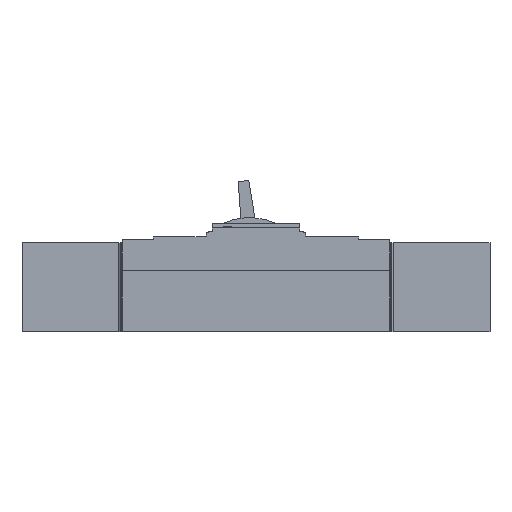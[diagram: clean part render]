
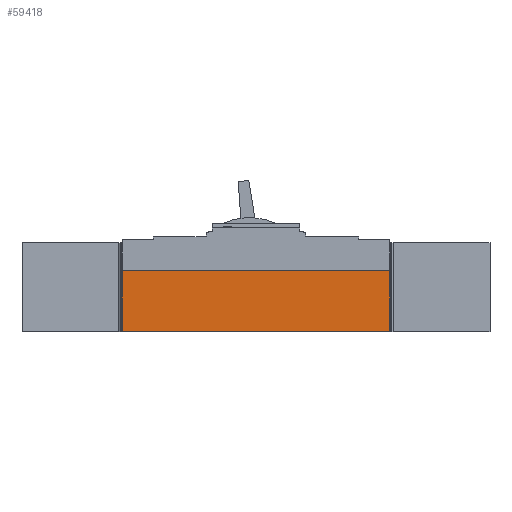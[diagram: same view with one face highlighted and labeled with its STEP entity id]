
A CAD part, left-side view. The second image highlights one B-rep face of the part: STEP entity #59418.
In plain terms, the highlighted planar face has unit normal (-1, 0, 0).
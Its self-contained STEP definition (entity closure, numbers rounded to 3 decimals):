
#59418 = ADVANCED_FACE('',(#59419),#59433,.T.);
#59419 = FACE_BOUND('',#59420,.T.);
#59420 = EDGE_LOOP('',(#59421,#59456,#59482,#59510));
#59421 = ORIENTED_EDGE('',*,*,#59422,.T.);
#59422 = EDGE_CURVE('',#59423,#59425,#59427,.T.);
#59423 = VERTEX_POINT('',#59424);
#59424 = CARTESIAN_POINT('',(0.,0.,0.));
#59425 = VERTEX_POINT('',#59426);
#59426 = CARTESIAN_POINT('',(0.,0.,63.));
#59427 = SURFACE_CURVE('',#59428,(#59432,#59444),.PCURVE_S1.);
#59428 = LINE('',#59429,#59430);
#59429 = CARTESIAN_POINT('',(0.,0.,0.));
#59430 = VECTOR('',#59431,1.);
#59431 = DIRECTION('',(0.,0.,1.));
#59432 = PCURVE('',#59433,#59438);
#59433 = PLANE('',#59434);
#59434 = AXIS2_PLACEMENT_3D('',#59435,#59436,#59437);
#59435 = CARTESIAN_POINT('',(0.,138.,51.149));
#59436 = DIRECTION('',(-1.,-0.,-0.));
#59437 = DIRECTION('',(0.,0.,-1.));
#59438 = DEFINITIONAL_REPRESENTATION('',(#59439),#59443);
#59439 = LINE('',#59440,#59441);
#59440 = CARTESIAN_POINT('',(51.149,138.));
#59441 = VECTOR('',#59442,1.);
#59442 = DIRECTION('',(-1.,0.));
#59443 = ( GEOMETRIC_REPRESENTATION_CONTEXT(2) 
PARAMETRIC_REPRESENTATION_CONTEXT() REPRESENTATION_CONTEXT('2D SPACE',''
  ) );
#59444 = PCURVE('',#59445,#59450);
#59445 = PLANE('',#59446);
#59446 = AXIS2_PLACEMENT_3D('',#59447,#59448,#59449);
#59447 = CARTESIAN_POINT('',(0.,0.,0.));
#59448 = DIRECTION('',(0.,1.,0.));
#59449 = DIRECTION('',(1.,0.,0.));
#59450 = DEFINITIONAL_REPRESENTATION('',(#59451),#59455);
#59451 = LINE('',#59452,#59453);
#59452 = CARTESIAN_POINT('',(0.,0.));
#59453 = VECTOR('',#59454,1.);
#59454 = DIRECTION('',(0.,-1.));
#59455 = ( GEOMETRIC_REPRESENTATION_CONTEXT(2) 
PARAMETRIC_REPRESENTATION_CONTEXT() REPRESENTATION_CONTEXT('2D SPACE',''
  ) );
#59456 = ORIENTED_EDGE('',*,*,#59457,.F.);
#59457 = EDGE_CURVE('',#59458,#59425,#59460,.T.);
#59458 = VERTEX_POINT('',#59459);
#59459 = CARTESIAN_POINT('',(0.,276.,63.));
#59460 = SURFACE_CURVE('',#59461,(#59465,#59471),.PCURVE_S1.);
#59461 = LINE('',#59462,#59463);
#59462 = CARTESIAN_POINT('',(0.,137.979,63.));
#59463 = VECTOR('',#59464,1.);
#59464 = DIRECTION('',(0.,-1.,0.));
#59465 = PCURVE('',#59433,#59466);
#59466 = DEFINITIONAL_REPRESENTATION('',(#59467),#59470);
#59467 = B_SPLINE_CURVE_WITH_KNOTS('',1,(#59468,#59469),.UNSPECIFIED.,
  .F.,.F.,(2,2),(-138.021,137.979),.PIECEWISE_BEZIER_KNOTS.);
#59468 = CARTESIAN_POINT('',(-11.851,-138.));
#59469 = CARTESIAN_POINT('',(-11.851,138.));
#59470 = ( GEOMETRIC_REPRESENTATION_CONTEXT(2) 
PARAMETRIC_REPRESENTATION_CONTEXT() REPRESENTATION_CONTEXT('2D SPACE',''
  ) );
#59471 = PCURVE('',#59472,#59477);
#59472 = PLANE('',#59473);
#59473 = AXIS2_PLACEMENT_3D('',#59474,#59475,#59476);
#59474 = CARTESIAN_POINT('',(101.325,137.958,63.));
#59475 = DIRECTION('',(-0.,-0.,-1.));
#59476 = DIRECTION('',(-1.,0.,0.));
#59477 = DEFINITIONAL_REPRESENTATION('',(#59478),#59481);
#59478 = B_SPLINE_CURVE_WITH_KNOTS('',1,(#59479,#59480),.UNSPECIFIED.,
  .F.,.F.,(2,2),(-138.021,137.979),.PIECEWISE_BEZIER_KNOTS.);
#59479 = CARTESIAN_POINT('',(101.325,138.042));
#59480 = CARTESIAN_POINT('',(101.325,-137.958));
#59481 = ( GEOMETRIC_REPRESENTATION_CONTEXT(2) 
PARAMETRIC_REPRESENTATION_CONTEXT() REPRESENTATION_CONTEXT('2D SPACE',''
  ) );
#59482 = ORIENTED_EDGE('',*,*,#59483,.F.);
#59483 = EDGE_CURVE('',#59484,#59458,#59486,.T.);
#59484 = VERTEX_POINT('',#59485);
#59485 = CARTESIAN_POINT('',(0.,276.,0.));
#59486 = SURFACE_CURVE('',#59487,(#59491,#59498),.PCURVE_S1.);
#59487 = LINE('',#59488,#59489);
#59488 = CARTESIAN_POINT('',(0.,276.,0.));
#59489 = VECTOR('',#59490,1.);
#59490 = DIRECTION('',(0.,0.,1.));
#59491 = PCURVE('',#59433,#59492);
#59492 = DEFINITIONAL_REPRESENTATION('',(#59493),#59497);
#59493 = LINE('',#59494,#59495);
#59494 = CARTESIAN_POINT('',(51.149,-138.));
#59495 = VECTOR('',#59496,1.);
#59496 = DIRECTION('',(-1.,0.));
#59497 = ( GEOMETRIC_REPRESENTATION_CONTEXT(2) 
PARAMETRIC_REPRESENTATION_CONTEXT() REPRESENTATION_CONTEXT('2D SPACE',''
  ) );
#59498 = PCURVE('',#59499,#59504);
#59499 = PLANE('',#59500);
#59500 = AXIS2_PLACEMENT_3D('',#59501,#59502,#59503);
#59501 = CARTESIAN_POINT('',(212.,276.,0.));
#59502 = DIRECTION('',(0.,-1.,0.));
#59503 = DIRECTION('',(-1.,0.,0.));
#59504 = DEFINITIONAL_REPRESENTATION('',(#59505),#59509);
#59505 = LINE('',#59506,#59507);
#59506 = CARTESIAN_POINT('',(212.,0.));
#59507 = VECTOR('',#59508,1.);
#59508 = DIRECTION('',(0.,-1.));
#59509 = ( GEOMETRIC_REPRESENTATION_CONTEXT(2) 
PARAMETRIC_REPRESENTATION_CONTEXT() REPRESENTATION_CONTEXT('2D SPACE',''
  ) );
#59510 = ORIENTED_EDGE('',*,*,#59511,.T.);
#59511 = EDGE_CURVE('',#59484,#59423,#59512,.T.);
#59512 = SURFACE_CURVE('',#59513,(#59517,#59524),.PCURVE_S1.);
#59513 = LINE('',#59514,#59515);
#59514 = CARTESIAN_POINT('',(0.,276.,0.));
#59515 = VECTOR('',#59516,1.);
#59516 = DIRECTION('',(0.,-1.,0.));
#59517 = PCURVE('',#59433,#59518);
#59518 = DEFINITIONAL_REPRESENTATION('',(#59519),#59523);
#59519 = LINE('',#59520,#59521);
#59520 = CARTESIAN_POINT('',(51.149,-138.));
#59521 = VECTOR('',#59522,1.);
#59522 = DIRECTION('',(0.,1.));
#59523 = ( GEOMETRIC_REPRESENTATION_CONTEXT(2) 
PARAMETRIC_REPRESENTATION_CONTEXT() REPRESENTATION_CONTEXT('2D SPACE',''
  ) );
#59524 = PCURVE('',#59525,#59530);
#59525 = PLANE('',#59526);
#59526 = AXIS2_PLACEMENT_3D('',#59527,#59528,#59529);
#59527 = CARTESIAN_POINT('',(106.,138.,0.));
#59528 = DIRECTION('',(0.,0.,1.));
#59529 = DIRECTION('',(1.,0.,0.));
#59530 = DEFINITIONAL_REPRESENTATION('',(#59531),#59535);
#59531 = LINE('',#59532,#59533);
#59532 = CARTESIAN_POINT('',(-106.,138.));
#59533 = VECTOR('',#59534,1.);
#59534 = DIRECTION('',(0.,-1.));
#59535 = ( GEOMETRIC_REPRESENTATION_CONTEXT(2) 
PARAMETRIC_REPRESENTATION_CONTEXT() REPRESENTATION_CONTEXT('2D SPACE',''
  ) );
